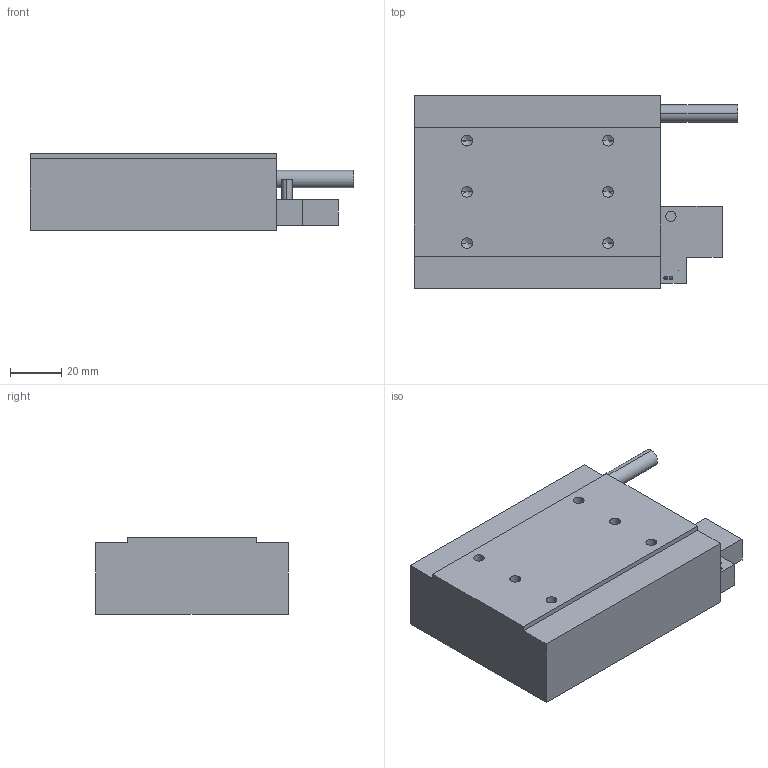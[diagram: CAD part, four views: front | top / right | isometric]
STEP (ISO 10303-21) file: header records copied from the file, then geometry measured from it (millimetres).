
FILE_DESCRIPTION (( 'STEP AP214' ), '1' );
FILE_NAME ('FLT-75-96（带霍尔）.STEP', '2022-04-13T09:11:02', ( 'Microsoft' ), ( 'Microsoft' ), 'SwSTEP 2.0', 'SolidWorks 2016', '' );
FILE_SCHEMA (( 'AUTOMOTIVE_DESIGN' ));
Length unit declared in the file: millimetre
Products named in the file (3): FLT-75-96（带霍尔）; FLT-75-96; FLT齊嫌耀倰芞
Assembly tree (2 placements, depth 2):
  FLT-75-96（带霍尔）
    FLT齊嫌耀倰芞
    FLT-75-96
Bounding box: 126 x 75 x 30 mm (x, y, z)
Volume: 217417.6 mm3; surface area: 28315.7 mm2
Topology: 2 solids, 2 shells, 74 faces, 178 edges, 102 vertices
Faces by surface type: cylinder 32, plane 22, cone 20
Entity records: 2300 total; most frequent: DIRECTION 380, CARTESIAN_POINT 339, ORIENTED_EDGE 316, EDGE_CURVE 158, AXIS2_PLACEMENT_3D 143, VERTEX_POINT 102, LINE 94, VECTOR 94
